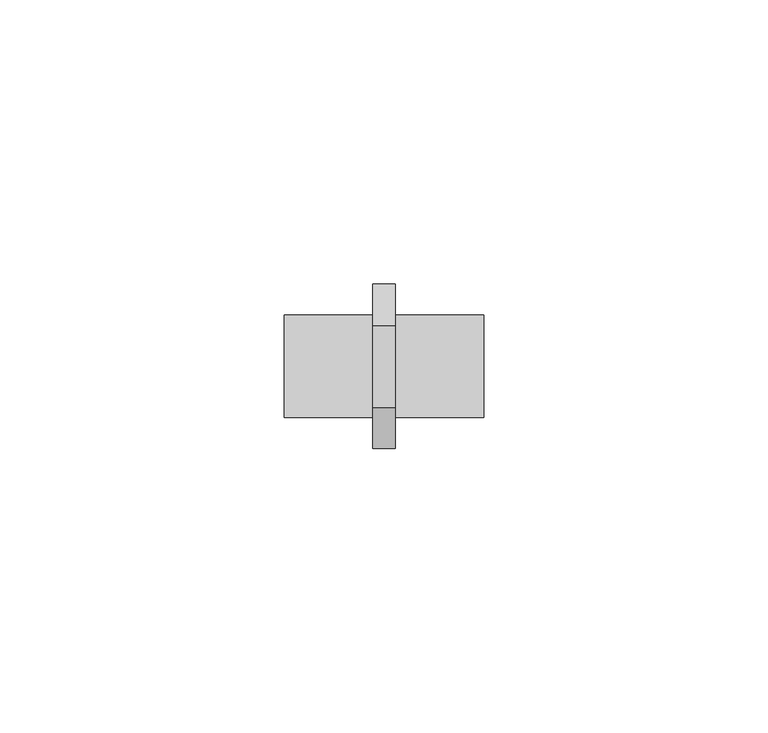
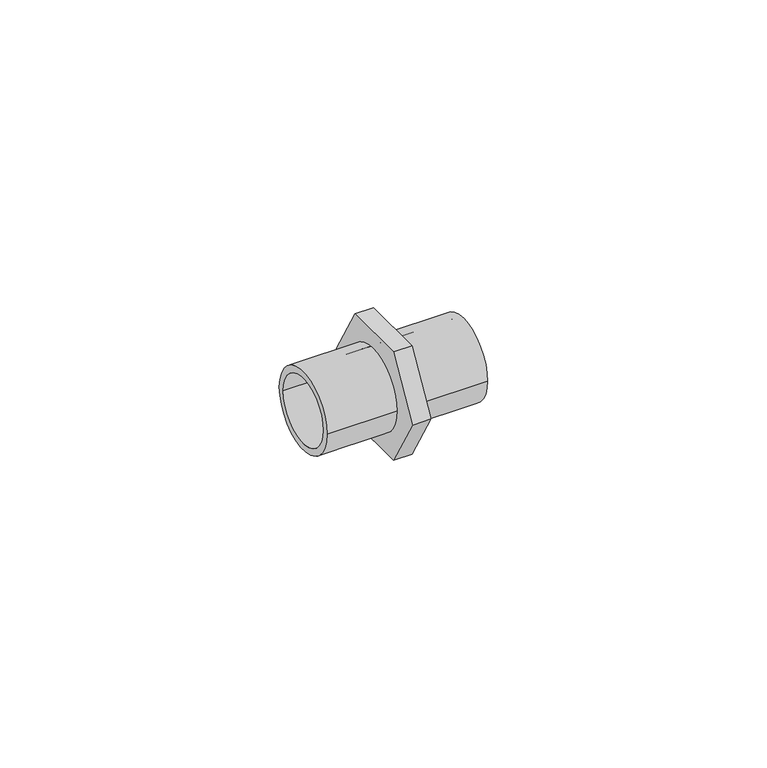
"""IFC4 building model written with IfcOpenShell, lengths in millimetres: pipe fitting geometry, VALTEC_VTi.582.I_Ниппель_Нержавеющая сталь : VTi.582.I."""

from ifc_helpers import new_model, si_unit, point, frame, origin, origin_2d, place, context, project, spatial, polyline, circle_curve, trimmed, segment, composite_curve, outline, extrude, source, transform, mapped, element, save


def pipe_fitting_2797d23a(model_context):
    return source(origin(), model_context, "Body", "SweptSolid", [
        extrude(outline(polyline([(-14.4337567, 0.0), (-7.2168784, 12.5), (7.2168784, 12.5), (14.4337567, 0.0), (7.2168784, -12.5), (-7.2168784, -12.5), (-14.4337567, 0.0)]), holes=[composite_curve([segment(trimmed(circle_curve(origin_2d(), 7.5), [point((7.5, 0.0))], [point((-7.5, 0.0))], True, "CARTESIAN"), True, "CONTINUOUS"), segment(trimmed(circle_curve(origin_2d(), 7.5), [point((-7.5, 0.0))], [point((7.5, 0.0))], True, "CARTESIAN"), True, "CONTINUOUS")], self_intersect=False)]), frame((-2.0, 0.0, 0.0), z_axis=(1.0, 0.0, 0.0), x_axis=(0.0, 1.0, 0.0)), (0.0, 0.0, 1.0), 4.0),
        extrude(outline(composite_curve([segment(trimmed(circle_curve(origin_2d(), 9.0), [point((-9.0, 0.0))], [point((9.0, 0.0))], False, "CARTESIAN"), True, "CONTINUOUS"), segment(trimmed(circle_curve(origin_2d(), 9.0), [point((9.0, 0.0))], [point((-9.0, 0.0))], False, "CARTESIAN"), True, "CONTINUOUS")], self_intersect=False), holes=[composite_curve([segment(trimmed(circle_curve(origin_2d(), 7.5), [point((-7.5, 0.0))], [point((7.5, 0.0))], True, "CARTESIAN"), True, "CONTINUOUS"), segment(trimmed(circle_curve(origin_2d(), 7.5), [point((7.5, 0.0))], [point((-7.5, 0.0))], True, "CARTESIAN"), True, "CONTINUOUS")], self_intersect=False)]), frame((2.0, 0.0, 0.0), z_axis=(1.0, 0.0, 0.0), x_axis=(0.0, 1.0, 0.0)), (0.0, 0.0, 1.0), 15.5),
        extrude(outline(composite_curve([segment(trimmed(circle_curve(origin_2d(), 9.0), [point((-9.0, 0.0))], [point((9.0, 0.0))], False, "CARTESIAN"), True, "CONTINUOUS"), segment(trimmed(circle_curve(origin_2d(), 9.0), [point((9.0, 0.0))], [point((-9.0, 0.0))], False, "CARTESIAN"), True, "CONTINUOUS")], self_intersect=False), holes=[composite_curve([segment(trimmed(circle_curve(origin_2d(), 7.5), [point((-7.5, 0.0))], [point((7.5, 0.0))], True, "CARTESIAN"), True, "CONTINUOUS"), segment(trimmed(circle_curve(origin_2d(), 7.5), [point((7.5, 0.0))], [point((-7.5, 0.0))], True, "CARTESIAN"), True, "CONTINUOUS")], self_intersect=False)]), frame((-17.5, 0.0, 0.0), z_axis=(1.0, 0.0, 0.0), x_axis=(0.0, 1.0, 0.0)), (0.0, 0.0, 1.0), 15.5),
    ])


if __name__ == "__main__":
    model = new_model("IFC4")
    model_context = context("Model", 3, world=origin())
    ifc_project = project(units=[si_unit("LENGTHUNIT", "METRE", prefix="MILLI")], contexts=[model_context])
    site = spatial("IfcSite", under=ifc_project)
    building = spatial("IfcBuilding", under=site)
    placement = place(None, origin())
    pipe_fitting_shape = pipe_fitting_2797d23a(model_context)
    element("IfcPipeFitting", 1, ObjectType="VALTEC_VTi.582.I_Ниппель_Нержавеющая сталь : VTi.582.I", at=placement, inside=building, context=model_context, shape_type="MappedRepresentation", body=[
        mapped(pipe_fitting_shape, transform((0.0, 0.0, 0.0), x_axis=(1.0, 0.0, 0.0), y_axis=(0.0, 1.0, 0.0), z_axis=(0.0, 0.0, 1.0))),
    ])
    save(model, "model.ifc")
